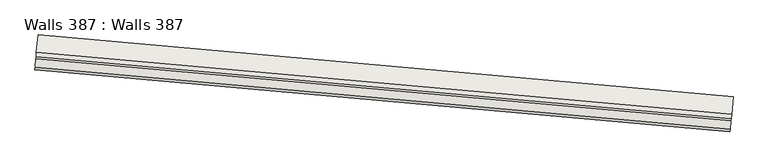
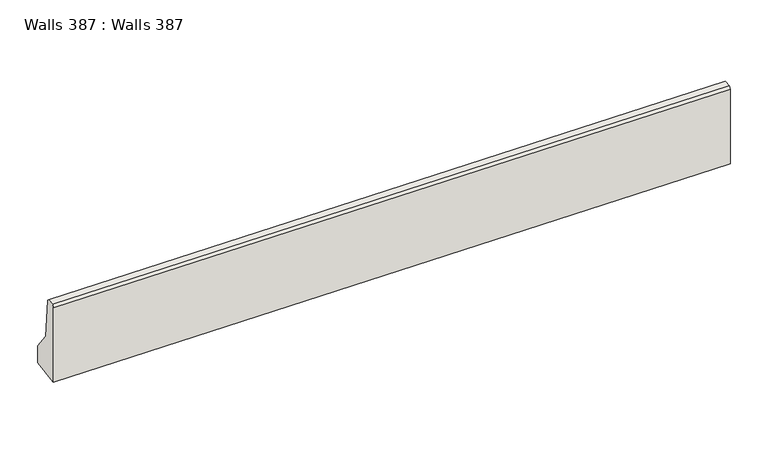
"""IFC4 building model written with IfcOpenShell, lengths in millimetres: wall geometry, Walls 387 : Walls 387."""

from ifc_helpers import new_model, si_unit, origin, place, context, project, spatial, faceted_brep, source, transform, mapped, element, save


def walls_387_walls_387_ccd68616(model_context):
    return source(origin(), model_context, "Body", "Brep", [
        faceted_brep([(-626858.4865528, -423234.4496325, 637935.0), (-626856.2681197, -423209.548256, 637960.0), (-626847.3943872, -423109.9427497, 637960.0), (-626845.175954, -423085.0413732, 637935.0), (-626840.7390878, -423035.2386201, 637430.0), (-626822.9916228, -422836.0276076, 637180.0), (-626822.9916228, -422836.0276076, 636960.0), (-626858.4865528, -423234.4496325, 636960.0), (-618890.0460545, -423944.3482338, 638435.0), (-618890.0460545, -423944.3482338, 637460.0), (-618854.5511245, -423545.9262088, 637460.0), (-618854.5511245, -423545.9262088, 637680.0), (-618872.2985895, -423745.1372213, 637930.0), (-618876.7354557, -423794.9399744, 638435.0), (-618878.9538889, -423819.841351, 638460.0), (-618887.8276214, -423919.4468572, 638460.0)], [[[0, 1, 2, 3, 4, 5, 6, 7]], [[8, 9, 10, 11, 12, 13, 14, 15]], [[8, 15, 1, 0]], [[15, 14, 2, 1]], [[14, 13, 3, 2]], [[13, 12, 4, 3]], [[12, 11, 5, 4]], [[11, 10, 6, 5]], [[10, 9, 7, 6]], [[9, 8, 0, 7]]]),
    ])


if __name__ == "__main__":
    model = new_model("IFC4")
    model_context = context("Model", 3, world=origin())
    ifc_project = project(units=[si_unit("LENGTHUNIT", "METRE", prefix="MILLI")], contexts=[model_context])
    site = spatial("IfcSite", under=ifc_project)
    building = spatial("IfcBuilding", under=site)
    placement = place(None, origin())
    walls_387_walls_387_shape = walls_387_walls_387_ccd68616(model_context)
    element("IfcWall", 1, ObjectType="Walls 387 : Walls 387", at=placement, inside=building, context=model_context, shape_type="MappedRepresentation", body=[
        mapped(walls_387_walls_387_shape, transform((0.0, 0.0, 0.0), x_axis=(1.0, 0.0, 0.0), y_axis=(0.0, 1.0, 0.0), z_axis=(0.0, 0.0, 1.0))),
    ])
    save(model, "model.ifc")
